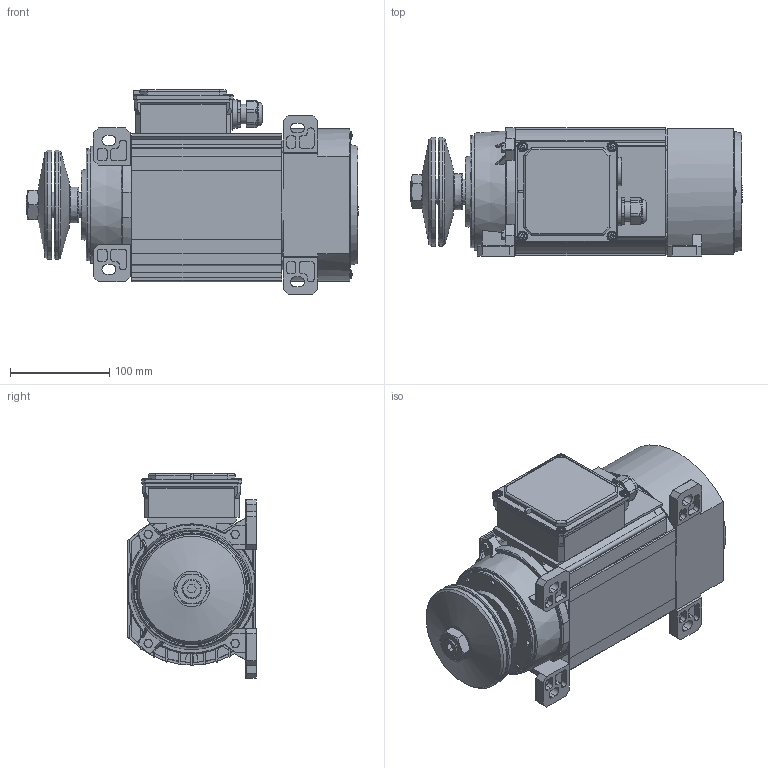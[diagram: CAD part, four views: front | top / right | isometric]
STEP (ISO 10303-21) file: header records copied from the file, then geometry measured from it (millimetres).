
FILE_DESCRIPTION(/* description */ (''),/* implementation_level */ '2;1');
FILE_NAME(/* name */ '',/* time_stamp */ '2015-08-31T08:44:08+02:00',/* author */ (''),/* organization */ (''),/* preprocessor_version */ 'ST-DEVELOPER v15',/* originating_system */ 'SIEMENS PLM Software NX 8.5',/* authorisation */ '');
FILE_SCHEMA (('AUTOMOTIVE_DESIGN { 1 0 10303 214 3 1 1 1 }'));
Length unit declared in the file: millimetre
Products named in the file (1): proc16503E39xp22
Bounding box: 334.5 x 129.5 x 206 mm (x, y, z)
Surface area: 422078 mm2 (no closed solid volume)
Topology: 0 solids, 40 shells, 1074 faces, 3392 edges, 2305 vertices
Faces by surface type: plane 711, cylinder 254, cone 59, torus 24, bspline 20, sphere 6
Full cylindrical faces by diameter (mm): 4.2 x4, 5 x4, 5.188 x4, 7.5 x4, 8 x2, 9 x1, 9.6 x4, 13 x1, 14 x1, 14.2 x1, 14.9 x1, 19.732 x2, 21 x1, 23 x1, 23.539 x1, 24 x2, 24.99 x1, 25 x1, 25.4 x1, 28.5 x2, 30 x1, 50 x1, 110 x2, 113 x1, 115 x1
Entity records: 37790 total; most frequent: CARTESIAN_POINT 7903, DIRECTION 6053, ORIENTED_EDGE 5584, EDGE_CURVE 3266, VERTEX_POINT 2271, LINE 2269, VECTOR 2269, AXIS2_PLACEMENT_3D 1892
